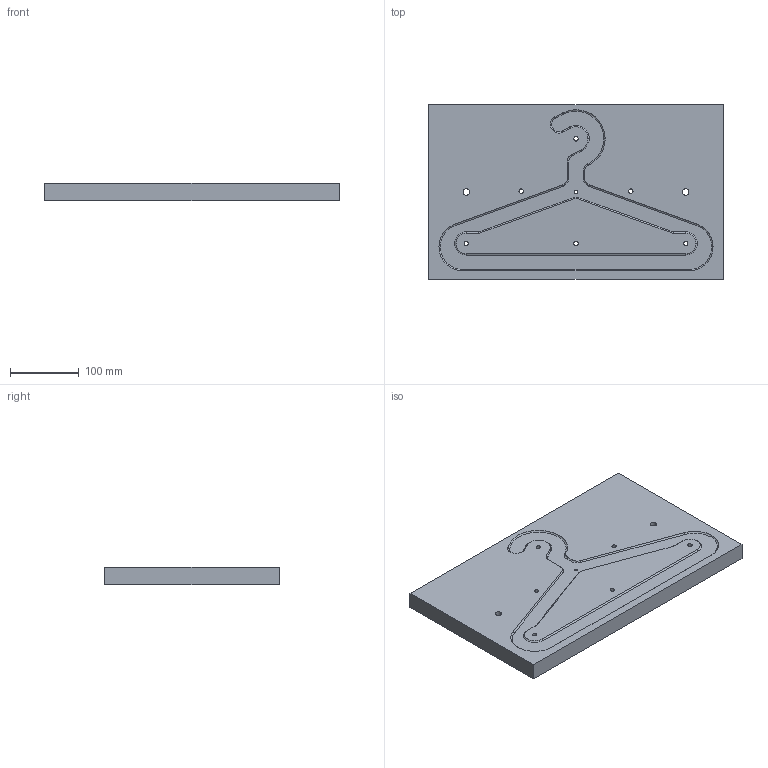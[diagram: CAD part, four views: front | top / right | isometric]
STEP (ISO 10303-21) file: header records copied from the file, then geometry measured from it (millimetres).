
FILE_DESCRIPTION (( 'STEP AP214' ), '1' );
FILE_NAME ('B.STEP', '2023-11-28T18:12:37', ( '' ), ( '' ), 'SwSTEP 2.0', 'SolidWorks 2018', '' );
FILE_SCHEMA (( 'AUTOMOTIVE_DESIGN' ));
Length unit declared in the file: millimetre
Products named in the file (1): B
Bounding box: 430 x 255 x 25.4 mm (x, y, z)
Volume: 2729538.9 mm3; surface area: 260567.6 mm2
Topology: 1 solids, 1 shells, 57 faces, 159 edges, 106 vertices
Faces by surface type: cylinder 31, torus 18, plane 8
Entity records: 1966 total; most frequent: DIRECTION 378, CARTESIAN_POINT 323, ORIENTED_EDGE 318, AXIS2_PLACEMENT_3D 161, EDGE_CURVE 159, VERTEX_POINT 106, CIRCLE 103, EDGE_LOOP 77
